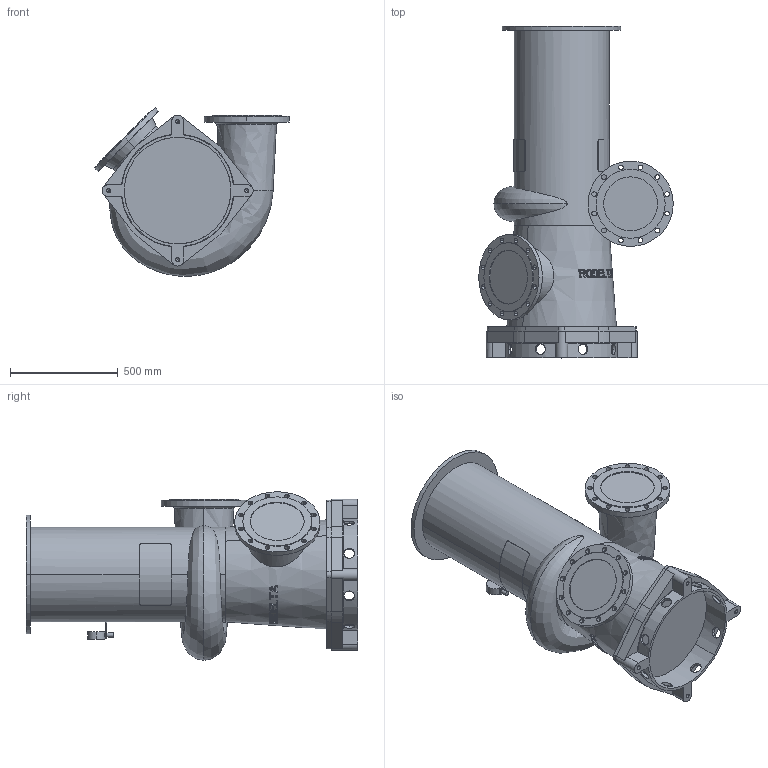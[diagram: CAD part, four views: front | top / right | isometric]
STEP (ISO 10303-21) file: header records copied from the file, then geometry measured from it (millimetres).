
FILE_DESCRIPTION((''),'2;1');
FILE_NAME('8510_ASM','2024-07-30T',('Lyritlocal'),(''),'PRO/ENGINEER BY PARAMETRIC TECHNOLOGY CORPORATION, 2016360','PRO/ENGINEER BY PARAMETRIC TECHNOLOGY CORPORATION, 2016360','');
FILE_SCHEMA(('CONFIG_CONTROL_DESIGN'));
Length unit declared in the file: millimetre
Products named in the file (3): 8510; 8510_VOET; 8510_ASM
Assembly tree (2 placements, depth 2):
  8510_ASM
    8510
    8510_VOET
Bounding box: 901.81 x 1539 x 781.47 mm (x, y, z)
Volume: 297748321.2 mm3; surface area: 4725053.7 mm2
Topology: 2 solids, 6 shells, 542 faces, 1460 edges, 967 vertices
Faces by surface type: plane 343, cylinder 155, cone 34, bspline 6, torus 4
Entity records: 19328 total; most frequent: CARTESIAN_POINT 6085, ORIENTED_EDGE 2888, DIRECTION 2477, EDGE_CURVE 1452, VERTEX_POINT 967, AXIS2_PLACEMENT_3D 961, EDGE_LOOP 659, VECTOR 555
